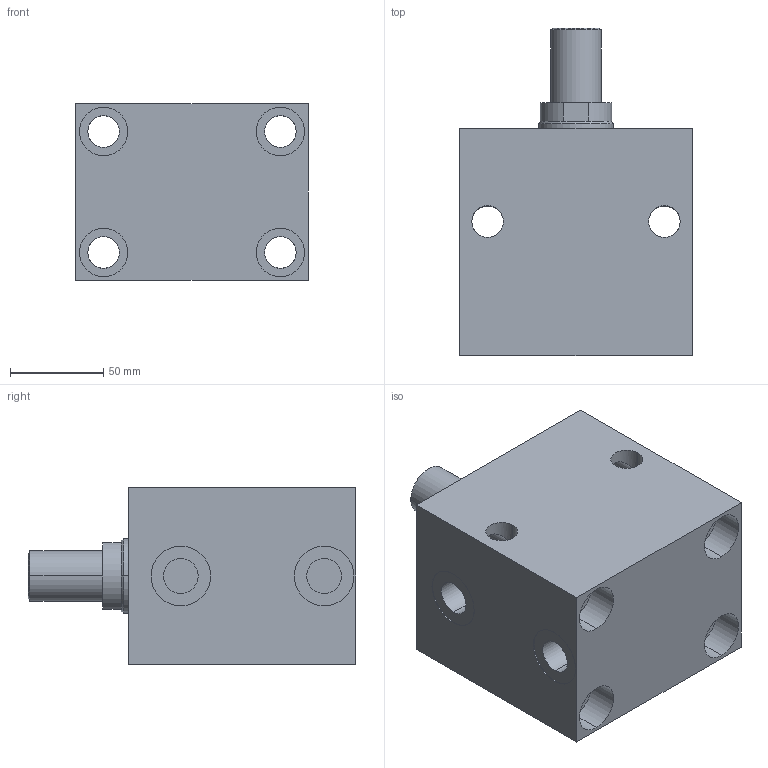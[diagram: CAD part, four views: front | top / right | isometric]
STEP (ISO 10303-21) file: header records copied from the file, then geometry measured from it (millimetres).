
FILE_DESCRIPTION (( 'STEP AP203' ), '1' );
FILE_NAME ('GERMA_Blockzylinder_600-063-050-A.STEP', '2015-07-16T12:57:22', ( '' ), ( '' ), 'SwSTEP 2.0', 'SolidWorks 2015', '' );
FILE_SCHEMA (( 'CONFIG_CONTROL_DESIGN' ));
Length unit declared in the file: millimetre
Products named in the file (3): GH-600-063_GH-600-063-050; Kolben 60x-063_Kolben DU.63-Hub50-AG; GERMA_Blockzylinder_600-063-050-A
Assembly tree (2 placements, depth 2):
  GERMA_Blockzylinder_600-063-050-A
    GH-600-063_GH-600-063-050
    Kolben 60x-063_Kolben DU.63-Hub50-AG
Bounding box: 125 x 176 x 95 mm (x, y, z)
Volume: 1203357.1 mm3; surface area: 162254.8 mm2
Topology: 2 solids, 2 shells, 113 faces, 258 edges, 157 vertices
Faces by surface type: cylinder 71, plane 30, cone 12
Entity records: 3498 total; most frequent: CARTESIAN_POINT 625, DIRECTION 579, ORIENTED_EDGE 508, EDGE_CURVE 254, AXIS2_PLACEMENT_3D 239, VERTEX_POINT 157, EDGE_LOOP 145, CIRCLE 121
